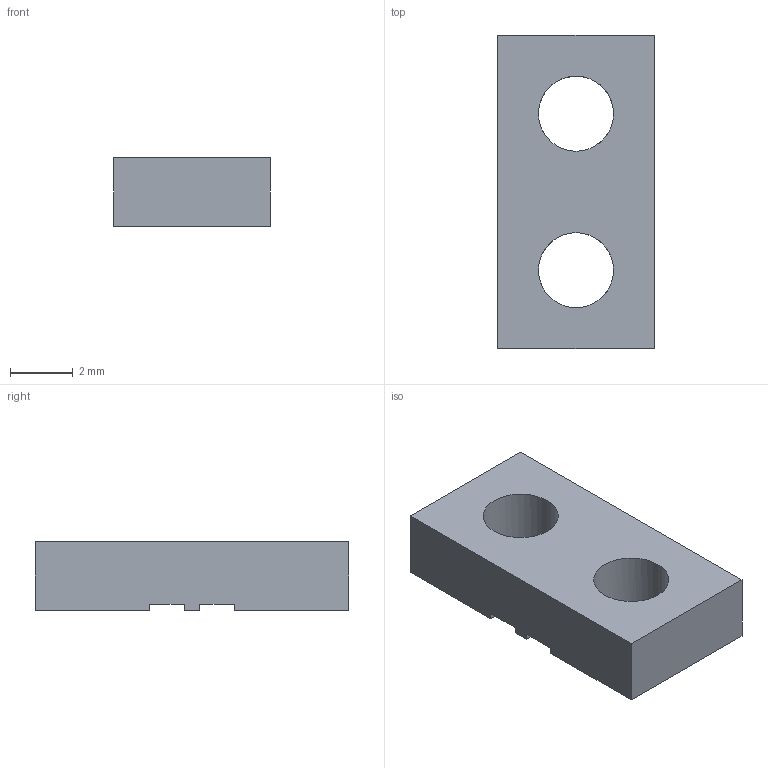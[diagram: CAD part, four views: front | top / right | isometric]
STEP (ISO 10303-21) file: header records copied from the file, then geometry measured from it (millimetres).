
FILE_DESCRIPTION(('Open CASCADE Model'),'2;1');
FILE_NAME('P16-yaw_line_clamp.step', '', ('Noah Wilson'), (''), '', '', '');
FILE_SCHEMA(('AUTOMOTIVE_DESIGN { 1 0 10303 214 1 1 1 1 }'));
Length unit declared in the file: millimetre
Products named in the file (1): COMPOUND
Bounding box: 5 x 10 x 2.2 mm (x, y, z)
Volume: 87.9 mm3; surface area: 183.6 mm2
Topology: 1 solids, 1 shells, 18 faces, 54 edges, 36 vertices
Faces by surface type: plane 16, cylinder 2
Full cylindrical faces by diameter (mm): 2.4 x2
Entity records: 1294 total; most frequent: CARTESIAN_POINT 249, DIRECTION 176, LINE 114, VECTOR 114, ORIENTED_EDGE 108, PCURVE 108, DEFINITIONAL_REPRESENTATION 108, EDGE_CURVE 54
